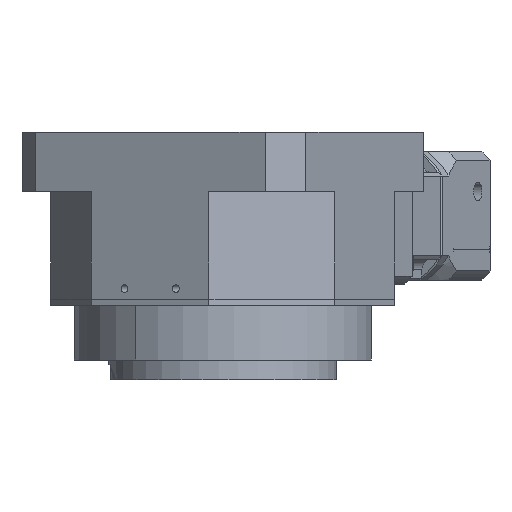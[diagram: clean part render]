
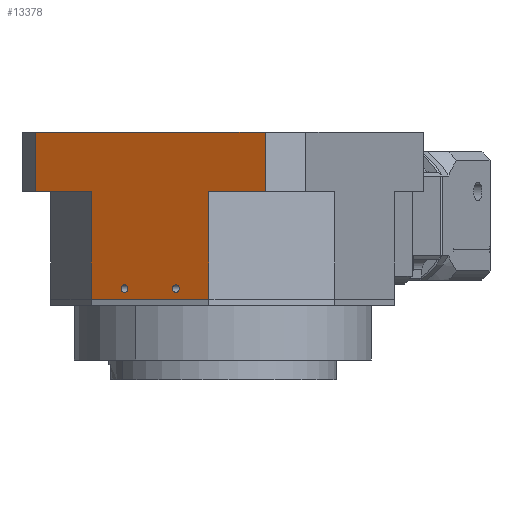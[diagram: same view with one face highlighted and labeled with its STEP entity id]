
A CAD part, left-side view. The second image highlights one B-rep face of the part: STEP entity #13378.
In plain terms, the highlighted planar face has unit normal (-0.89, 0.455, 0) as drawn and (1, 0, 0) by its records, which use the part's own axes.
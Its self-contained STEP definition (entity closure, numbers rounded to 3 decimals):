
#1657 = VERTEX_POINT ( 'NONE', #36831 ) ;
#1739 = CARTESIAN_POINT ( 'NONE',  ( 53.5, -21.746, 55. ) ) ;
#2041 = DIRECTION ( 'NONE',  ( 0., 0., 1. ) ) ;
#2465 = DIRECTION ( 'NONE',  ( 0., 0., -1. ) ) ;
#3107 = CARTESIAN_POINT ( 'NONE',  ( 53.5, 42.5, 55. ) ) ;
#3439 = CARTESIAN_POINT ( 'NONE',  ( 53.5, 21.746, 55. ) ) ;
#3509 = CARTESIAN_POINT ( 'NONE',  ( 53.5, -42.5, 19.5 ) ) ;
#3777 = FACE_OUTER_BOUND ( 'NONE', #38167, .T. ) ;
#4000 = DIRECTION ( 'NONE',  ( 0., 1., 0. ) ) ;
#4003 = ORIENTED_EDGE ( 'NONE', *, *, #44264, .F. ) ;
#4883 = VECTOR ( 'NONE', #32564, 1000. ) ;
#5194 = CARTESIAN_POINT ( 'NONE',  ( 53.5, -9.5, 50.25 ) ) ;
#5987 = VERTEX_POINT ( 'NONE', #42804 ) ;
#6722 = DIRECTION ( 'NONE',  ( 1., 0., 0. ) ) ;
#6800 = VERTEX_POINT ( 'NONE', #3509 ) ;
#7209 = LINE ( 'NONE', #3107, #4883 ) ;
#7408 = CARTESIAN_POINT ( 'NONE',  ( 53.5, -9.5, 51.5 ) ) ;
#7730 = VERTEX_POINT ( 'NONE', #29326 ) ;
#7763 = VERTEX_POINT ( 'NONE', #21988 ) ;
#8770 = CARTESIAN_POINT ( 'NONE',  ( 53.5, -9.5, 51.5 ) ) ;
#8790 = VERTEX_POINT ( 'NONE', #23583 ) ;
#9635 = ORIENTED_EDGE ( 'NONE', *, *, #35158, .F. ) ;
#9963 = VECTOR ( 'NONE', #25544, 1000. ) ;
#10444 = AXIS2_PLACEMENT_3D ( 'NONE', #28790, #6722, #32453 ) ;
#10779 = DIRECTION ( 'NONE',  ( 0., 1., 0. ) ) ;
#11095 = DIRECTION ( 'NONE',  ( 0., 0., -1. ) ) ;
#11555 = AXIS2_PLACEMENT_3D ( 'NONE', #7408, #33132, #11095 ) ;
#12015 = CARTESIAN_POINT ( 'NONE',  ( 53.5, -52.5, 19.5 ) ) ;
#12073 = LINE ( 'NONE', #33461, #31645 ) ;
#12464 = DIRECTION ( 'NONE',  ( 0., 0., -1. ) ) ;
#12607 = DIRECTION ( 'NONE',  ( 1., 0., 0. ) ) ;
#12686 = DIRECTION ( 'NONE',  ( 0., -1., 0. ) ) ;
#13216 = CARTESIAN_POINT ( 'NONE',  ( 53.5, -21.746, 55. ) ) ;
#13279 = ORIENTED_EDGE ( 'NONE', *, *, #24283, .F. ) ;
#13378 = ADVANCED_FACE ( 'NONE', ( #3777, #41753, #13614 ), #17831, .F. ) ;
#13614 = FACE_BOUND ( 'NONE', #35887, .T. ) ;
#13650 = VERTEX_POINT ( 'NONE', #5194 ) ;
#13725 = ORIENTED_EDGE ( 'NONE', *, *, #16564, .F. ) ;
#13727 = ORIENTED_EDGE ( 'NONE', *, *, #26705, .F. ) ;
#15749 = DIRECTION ( 'NONE',  ( 0., 1., 0. ) ) ;
#15986 = LINE ( 'NONE', #39159, #24651 ) ;
#16564 = EDGE_CURVE ( 'NONE', #31212, #41610, #40426, .T. ) ;
#17831 = PLANE ( 'NONE',  #38643 ) ;
#18646 = AXIS2_PLACEMENT_3D ( 'NONE', #34651, #12607, #38320 ) ;
#18961 = CIRCLE ( 'NONE', #10444, 1.25 ) ;
#20033 = CIRCLE ( 'NONE', #29920, 1.25 ) ;
#20479 = EDGE_CURVE ( 'NONE', #6800, #8790, #15986, .T. ) ;
#21253 = EDGE_CURVE ( 'NONE', #41610, #1657, #37418, .T. ) ;
#21360 = EDGE_CURVE ( 'NONE', #36641, #31212, #12073, .T. ) ;
#21536 = DIRECTION ( 'NONE',  ( -1., 0., 0. ) ) ;
#21988 = CARTESIAN_POINT ( 'NONE',  ( 53.5, 9.5, 52.75 ) ) ;
#23583 = CARTESIAN_POINT ( 'NONE',  ( 53.5, -42.5, 0. ) ) ;
#23704 = ORIENTED_EDGE ( 'NONE', *, *, #21253, .F. ) ;
#23718 = ORIENTED_EDGE ( 'NONE', *, *, #21360, .F. ) ;
#24283 = EDGE_CURVE ( 'NONE', #1657, #36629, #7209, .T. ) ;
#24651 = VECTOR ( 'NONE', #2465, 1000. ) ;
#25384 = CIRCLE ( 'NONE', #18646, 1.25 ) ;
#25544 = DIRECTION ( 'NONE',  ( 0., 0., -1. ) ) ;
#26526 = VECTOR ( 'NONE', #10779, 1000. ) ;
#26705 = EDGE_CURVE ( 'NONE', #46405, #36641, #36951, .T. ) ;
#28372 = VECTOR ( 'NONE', #2041, 1000. ) ;
#28790 = CARTESIAN_POINT ( 'NONE',  ( 53.5, 9.5, 51.5 ) ) ;
#29136 = CARTESIAN_POINT ( 'NONE',  ( 53.5, -52.5, 19.5 ) ) ;
#29326 = CARTESIAN_POINT ( 'NONE',  ( 53.5, -9.5, 52.75 ) ) ;
#29920 = AXIS2_PLACEMENT_3D ( 'NONE', #8770, #34513, #12464 ) ;
#31212 = VERTEX_POINT ( 'NONE', #39412 ) ;
#31645 = VECTOR ( 'NONE', #4000, 1000. ) ;
#32387 = ORIENTED_EDGE ( 'NONE', *, *, #20479, .T. ) ;
#32430 = CARTESIAN_POINT ( 'NONE',  ( 53.5, -52.5, 55. ) ) ;
#32453 = DIRECTION ( 'NONE',  ( 0., 0., -1. ) ) ;
#32564 = DIRECTION ( 'NONE',  ( 0., 0., -1. ) ) ;
#32575 = LINE ( 'NONE', #12015, #40012 ) ;
#33132 = DIRECTION ( 'NONE',  ( 1., 0., 0. ) ) ;
#33141 = CARTESIAN_POINT ( 'NONE',  ( 53.5, -21.746, 19.5 ) ) ;
#33461 = CARTESIAN_POINT ( 'NONE',  ( 53.5, -52.5, 55. ) ) ;
#34281 = LINE ( 'NONE', #34714, #44021 ) ;
#34513 = DIRECTION ( 'NONE',  ( 1., 0., 0. ) ) ;
#34651 = CARTESIAN_POINT ( 'NONE',  ( 53.5, 9.5, 51.5 ) ) ;
#34714 = CARTESIAN_POINT ( 'NONE',  ( 53.5, 0., 0. ) ) ;
#35158 = EDGE_CURVE ( 'NONE', #13650, #7730, #36936, .T. ) ;
#35761 = EDGE_LOOP ( 'NONE', ( #9635, #42455 ) ) ;
#35887 = EDGE_LOOP ( 'NONE', ( #4003, #40375 ) ) ;
#36415 = ORIENTED_EDGE ( 'NONE', *, *, #45401, .F. ) ;
#36629 = VERTEX_POINT ( 'NONE', #38436 ) ;
#36641 = VERTEX_POINT ( 'NONE', #1739 ) ;
#36831 = CARTESIAN_POINT ( 'NONE',  ( 53.5, 42.5, 19.5 ) ) ;
#36936 = CIRCLE ( 'NONE', #11555, 1.25 ) ;
#36951 = LINE ( 'NONE', #13216, #28372 ) ;
#37418 = LINE ( 'NONE', #29136, #26526 ) ;
#38167 = EDGE_LOOP ( 'NONE', ( #32387, #38186, #13279, #23704, #13725, #23718, #13727, #36415 ) ) ;
#38186 = ORIENTED_EDGE ( 'NONE', *, *, #40393, .F. ) ;
#38320 = DIRECTION ( 'NONE',  ( 0., 0., -1. ) ) ;
#38363 = EDGE_CURVE ( 'NONE', #7763, #5987, #18961, .T. ) ;
#38436 = CARTESIAN_POINT ( 'NONE',  ( 53.5, 42.5, 0. ) ) ;
#38643 = AXIS2_PLACEMENT_3D ( 'NONE', #32430, #21536, #47195 ) ;
#39159 = CARTESIAN_POINT ( 'NONE',  ( 53.5, -42.5, 55. ) ) ;
#39396 = EDGE_CURVE ( 'NONE', #7730, #13650, #20033, .T. ) ;
#39412 = CARTESIAN_POINT ( 'NONE',  ( 53.5, 21.746, 55. ) ) ;
#40012 = VECTOR ( 'NONE', #15749, 1000. ) ;
#40375 = ORIENTED_EDGE ( 'NONE', *, *, #38363, .F. ) ;
#40393 = EDGE_CURVE ( 'NONE', #36629, #8790, #34281, .T. ) ;
#40426 = LINE ( 'NONE', #3439, #9963 ) ;
#41610 = VERTEX_POINT ( 'NONE', #43101 ) ;
#41753 = FACE_BOUND ( 'NONE', #35761, .T. ) ;
#42455 = ORIENTED_EDGE ( 'NONE', *, *, #39396, .F. ) ;
#42804 = CARTESIAN_POINT ( 'NONE',  ( 53.5, 9.5, 50.25 ) ) ;
#43101 = CARTESIAN_POINT ( 'NONE',  ( 53.5, 21.746, 19.5 ) ) ;
#44021 = VECTOR ( 'NONE', #12686, 1000. ) ;
#44264 = EDGE_CURVE ( 'NONE', #5987, #7763, #25384, .T. ) ;
#45401 = EDGE_CURVE ( 'NONE', #6800, #46405, #32575, .T. ) ;
#46405 = VERTEX_POINT ( 'NONE', #33141 ) ;
#47195 = DIRECTION ( 'NONE',  ( 0., 0., 1. ) ) ;
